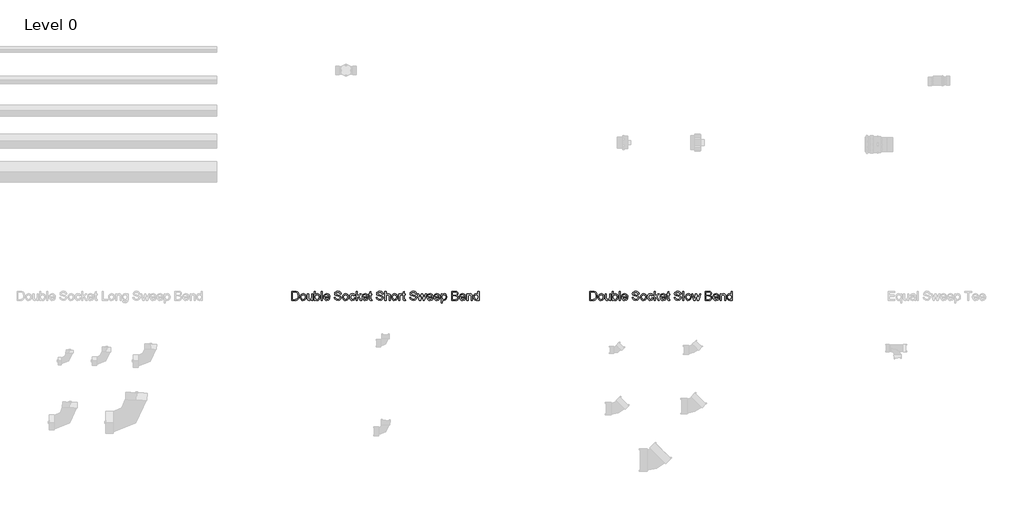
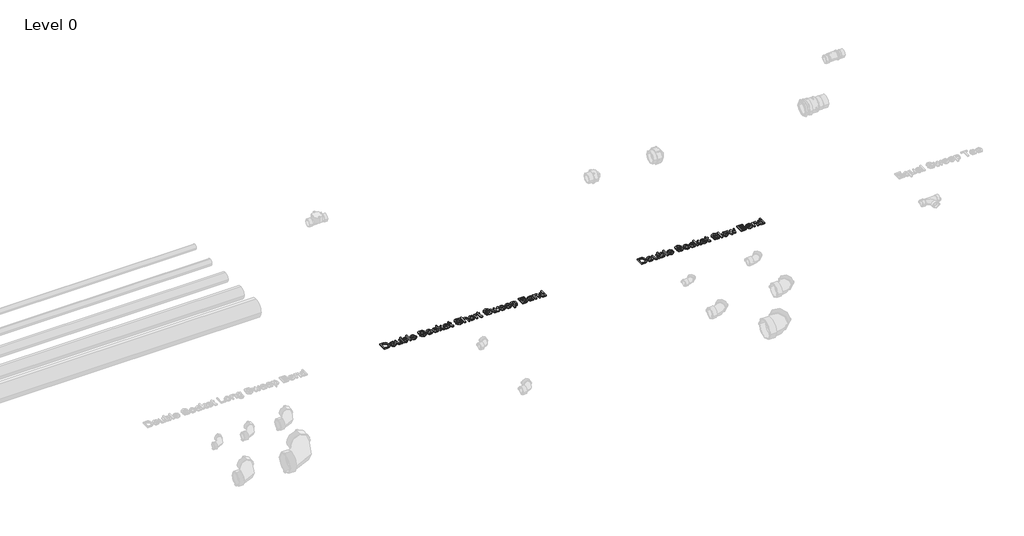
# One storey, part 7 of 10: 2 proxies.
"""IFC4 building model written with IfcOpenShell, lengths in millimetres."""

from ifc_helpers import new_model, si_unit, origin, origin_with_axes, place, context, project, spatial, polyline, outline, extrude, element, save

model = new_model("IFC4")

# Units and contexts
model_context = context("Model", 3, world=origin())
ifc_project = project(units=[si_unit("LENGTHUNIT", "METRE", prefix="MILLI")], contexts=[model_context])

# Site, building, storey
site = spatial("IfcSite", under=ifc_project)
building = spatial("IfcBuilding", under=site)
storey = spatial("IfcBuildingStorey", under=building, Name="Level 0", Elevation=0.0)

# Proxies
placement = place(None, origin())
element("IfcBuildingElementProxy", 1, Name="75mm Arial", ObjectType="75mm Arial", at=placement, inside=storey, context=model_context, shape_type="SweptSolid", body=[
    extrude(outline(polyline([(-868.1771031, 3356.6243175), (-868.1771031, 3430.4704713), (-842.7023435, 3430.4704713), (-829.5232569, 3429.4067694), (-818.6698916, 3424.1243175), (-809.9259012, 3411.5041252), (-807.0232569, 3393.944029), (-808.9884012, 3379.0431877), (-814.0364781, 3368.2889809), (-820.7792666, 3361.5912646), (-829.6043867, 3357.8863367), (-841.4763819, 3356.6243175), (-868.1771031, 3356.6243175)]), holes=[polyline([(-858.9463339, 3365.8550867), (-842.6121992, 3365.8550867), (-830.7311896, 3367.1892213), (-823.8802281, 3370.9572502), (-818.2642425, 3380.1249184), (-816.2540262, 3394.0882598), (-820.1933291, 3411.5762405), (-829.7756608, 3419.7613367), (-842.8646031, 3421.2397021), (-858.9463339, 3421.2397021), (-858.9463339, 3365.8550867)])]), origin_with_axes(), (0.0, 0.0, 1.0), 10.0),
    extrude(outline(polyline([(-797.7924877, 3383.7397021), (-795.795793, 3396.8151228), (-789.8057089, 3406.0053271), (-782.4048675, 3410.5080314), (-773.5436896, 3412.0089328), (-763.846424, 3410.1812586), (-756.100781, 3404.6982357), (-751.0234072, 3395.9925566), (-749.3309492, 3384.4969136), (-752.3237377, 3368.0726348), (-761.0406848, 3358.7787646), (-773.5436896, 3355.4704713), (-783.3581428, 3357.2913848), (-791.0947714, 3362.7541252), (-796.1180586, 3371.6423463), (-797.7924877, 3383.7397021)]), holes=[polyline([(-788.5617185, 3383.7577309), (-784.2888819, 3369.4518415), (-773.5436896, 3364.7012405), (-762.834555, 3369.4788848), (-758.5617185, 3384.0461925), (-762.8615983, 3398.0275627), (-773.5436896, 3402.7781636), (-784.2888819, 3398.0455915), (-788.5617185, 3383.7577309)])]), origin_with_axes(), (0.0, 0.0, 1.0), 10.0),
    extrude(outline(polyline([(-704.3309492, 3356.6243175), (-704.3309492, 3365.9452309), (-711.5605166, 3358.0891612), (-720.9896031, 3355.4704713), (-729.6704925, 3357.3094136), (-735.6560694, 3361.9247982), (-738.4054685, 3368.7216732), (-738.9463339, 3377.303404), (-738.9463339, 3410.8550867), (-729.7155646, 3410.8550867), (-729.7155646, 3381.6483559), (-729.1566704, 3372.2372982), (-725.5058291, 3366.7114569), (-718.6278242, 3364.7012405), (-710.9204925, 3366.756529), (-705.8273435, 3372.3544857), (-704.3309492, 3382.6399425), (-704.3309492, 3410.8550867), (-695.10018, 3410.8550867), (-695.10018, 3356.6243175), (-704.3309492, 3356.6243175)])), origin_with_axes(), (0.0, 0.0, 1.0), 10.0),
    extrude(outline(polyline([(-673.1771031, 3356.6243175), (-682.4078723, 3356.6243175), (-682.4078723, 3430.4704713), (-673.1771031, 3430.4704713), (-673.1771031, 3403.084654), (-666.7137617, 3409.7778631), (-658.6819108, 3412.0089328), (-649.4331127, 3409.9987165), (-642.2576319, 3404.3466732), (-637.8495791, 3395.5576107), (-636.2540262, 3384.5510002), (-637.9059192, 3372.2282838), (-642.8615983, 3363.0606155), (-650.1339841, 3357.3680074), (-658.7359973, 3355.4704713), (-666.9436295, 3357.9178872), (-673.1771031, 3365.2601348), (-673.1771031, 3356.6243175)]), holes=[polyline([(-673.1771031, 3384.1183078), (-670.6530646, 3371.209654), (-665.8168267, 3366.3283439), (-659.5292666, 3364.7012405), (-649.6494589, 3369.4969136), (-645.4847954, 3383.7937886), (-649.4781848, 3398.1447502), (-659.1326319, 3402.7781636), (-669.0124396, 3397.9824905), (-673.1771031, 3384.1183078)])]), origin_with_axes(), (0.0, 0.0, 1.0), 10.0),
    extrude(outline(polyline([(-625.8694108, 3356.6243175), (-625.8694108, 3430.4704713), (-616.6386416, 3430.4704713), (-616.6386416, 3356.6243175), (-625.8694108, 3356.6243175)])), origin_with_axes(), (0.0, 0.0, 1.0), 10.0),
    extrude(outline(polyline([(-564.8237377, 3372.7781636), (-555.7732569, 3371.6243175), (-564.2378002, 3359.7072502), (-580.0040262, 3355.4704713), (-590.8348555, 3357.2981456), (-599.1686896, 3362.7811684), (-604.482692, 3371.5634701), (-606.2540262, 3383.2889809), (-604.4646632, 3395.4088728), (-599.0965742, 3404.4728752), (-590.8754204, 3410.1249184), (-580.5268627, 3412.0089328), (-570.5005706, 3410.1294256), (-562.4890021, 3404.490904), (-557.2358471, 3395.4449304), (-555.4847954, 3383.3430675), (-555.5388819, 3380.8550867), (-597.0232569, 3380.8550867), (-591.7137617, 3368.865904), (-579.8237377, 3364.7012405), (-570.7732569, 3366.6303271), (-564.8237377, 3372.7781636)]), holes=[polyline([(-597.0232569, 3390.0858559), (-564.7155646, 3390.0858559), (-568.4114781, 3398.4512405), (-580.5629204, 3402.7781636), (-591.9301079, 3399.3256396), (-597.0232569, 3390.0858559)])]), origin_with_axes(), (0.0, 0.0, 1.0), 10.0),
    extrude(outline(polyline([(-519.7155646, 3382.0089328), (-510.4847954, 3382.0089328), (-507.5100358, 3372.7691492), (-500.2444108, 3366.927803), (-489.1746992, 3364.7012405), (-479.5292666, 3366.3869377), (-473.3003002, 3371.0203511), (-471.2540262, 3377.2132598), (-472.7864781, 3382.9734761), (-479.0605166, 3387.1651828), (-492.5010214, 3390.6898223), (-506.9691704, 3395.2421059), (-514.8207329, 3402.1110963), (-517.4078723, 3411.287779), (-514.2077521, 3421.7354953), (-504.8597954, 3429.1092934), (-491.1759012, 3431.6243175), (-476.5725358, 3428.9921059), (-466.8369589, 3421.2577309), (-463.1771031, 3409.7012405), (-472.4078723, 3409.7012405), (-477.6362377, 3419.1844136), (-490.8153242, 3422.3935482), (-504.0304685, 3419.2204713), (-508.1771031, 3411.5582117), (-505.2384012, 3405.1579713), (-490.1662858, 3400.0017213), (-473.8321512, 3395.3683078), (-464.8988579, 3387.8863367), (-462.0232569, 3377.4476348), (-465.3315502, 3366.4049665), (-474.850781, 3358.3460723), (-488.8141223, 3355.4704713), (-505.3015021, 3358.5714328), (-515.7311896, 3367.9103752), (-519.7155646, 3382.0089328)])), origin_with_axes(), (0.0, 0.0, 1.0), 10.0),
    extrude(outline(polyline([(-451.6386416, 3383.7397021), (-449.6419468, 3396.8151228), (-443.6518627, 3406.0053271), (-436.2510214, 3410.5080314), (-427.3898435, 3412.0089328), (-417.6925779, 3410.1812586), (-409.9469348, 3404.6982357), (-404.869561, 3395.9925566), (-403.1771031, 3384.4969136), (-406.1698916, 3368.0726348), (-414.8868387, 3358.7787646), (-427.3898435, 3355.4704713), (-437.2042966, 3357.2913848), (-444.9409252, 3362.7541252), (-449.9642125, 3371.6423463), (-451.6386416, 3383.7397021)]), holes=[polyline([(-442.4078723, 3383.7577309), (-438.1350358, 3369.4518415), (-427.3898435, 3364.7012405), (-416.6807089, 3369.4788848), (-412.4078723, 3384.0461925), (-416.7077521, 3398.0275627), (-427.3898435, 3402.7781636), (-438.1350358, 3398.0455915), (-442.4078723, 3383.7577309)])]), origin_with_axes(), (0.0, 0.0, 1.0), 10.0),
    extrude(outline(polyline([(-358.1771031, 3376.2397021), (-348.9463339, 3375.0858559), (-356.3561896, 3360.6717934), (-370.9956127, 3355.4704713), (-380.814573, 3357.284624), (-388.4926079, 3362.7270819), (-393.448287, 3371.5589629), (-395.10018, 3383.5413848), (-392.2786656, 3398.8749184), (-383.678906, 3408.7276828), (-371.1218146, 3412.0089328), (-357.0863579, 3407.5017213), (-350.10018, 3394.7012405), (-359.3309492, 3393.5473944), (-363.6128002, 3400.4614569), (-371.0496992, 3402.7781636), (-381.7498194, 3398.2168655), (-385.8694108, 3383.7937886), (-381.8399637, 3369.2354953), (-371.3021031, 3364.7012405), (-362.6031848, 3367.5317694), (-358.1771031, 3376.2397021)])), origin_with_axes(), (0.0, 0.0, 1.0), 10.0),
    extrude(outline(polyline([(-340.8694108, 3356.6243175), (-340.8694108, 3430.4704713), (-331.6386416, 3430.4704713), (-331.6386416, 3390.7889809), (-310.9415262, 3410.8550867), (-298.1771031, 3410.8550867), (-319.1266223, 3390.5365771), (-297.0232569, 3356.6243175), (-307.8045069, 3356.6243175), (-325.7432089, 3384.1183078), (-331.6386416, 3378.4031636), (-331.6386416, 3356.6243175), (-340.8694108, 3356.6243175)])), origin_with_axes(), (0.0, 0.0, 1.0), 10.0),
    extrude(outline(polyline([(-250.9775839, 3372.7781636), (-241.9271031, 3371.6243175), (-250.3916464, 3359.7072502), (-266.1578723, 3355.4704713), (-276.9887017, 3357.2981456), (-285.3225358, 3362.7811684), (-290.6365382, 3371.5634701), (-292.4078723, 3383.2889809), (-290.6185093, 3395.4088728), (-285.2504204, 3404.4728752), (-277.0292666, 3410.1249184), (-266.6807089, 3412.0089328), (-256.6544168, 3410.1294256), (-248.6428483, 3404.490904), (-243.3896932, 3395.4449304), (-241.6386416, 3383.3430675), (-241.6927281, 3380.8550867), (-283.1771031, 3380.8550867), (-277.8676079, 3368.865904), (-265.9775839, 3364.7012405), (-256.9271031, 3366.6303271), (-250.9775839, 3372.7781636)]), holes=[polyline([(-283.1771031, 3390.0858559), (-250.8694108, 3390.0858559), (-254.5653242, 3398.4512405), (-266.7167666, 3402.7781636), (-278.0839541, 3399.3256396), (-283.1771031, 3390.0858559)])]), origin_with_axes(), (0.0, 0.0, 1.0), 10.0),
    extrude(outline(polyline([(-212.7924877, 3364.3226348), (-211.6386416, 3356.3538848), (-218.5436896, 3355.4704713), (-226.2780646, 3357.0029232), (-230.1362377, 3361.0233559), (-231.2540262, 3371.4981155), (-231.2540262, 3401.6243175), (-238.1771031, 3401.6243175), (-238.1771031, 3410.8550867), (-231.2540262, 3410.8550867), (-231.2540262, 3424.0341732), (-222.0232569, 3429.4608559), (-222.0232569, 3410.8550867), (-212.7924877, 3410.8550867), (-212.7924877, 3401.6243175), (-222.0232569, 3401.6243175), (-222.0232569, 3371.7685482), (-221.5364781, 3367.0089328), (-219.9589541, 3365.3232357), (-216.8129204, 3364.7012405), (-212.7924877, 3364.3226348)])), origin_with_axes(), (0.0, 0.0, 1.0), 10.0),
    extrude(outline(polyline([(-177.0232569, 3382.0089328), (-167.7924877, 3382.0089328), (-164.8177281, 3372.7691492), (-157.5521031, 3366.927803), (-146.4823916, 3364.7012405), (-136.8369589, 3366.3869377), (-130.6079925, 3371.0203511), (-128.5617185, 3377.2132598), (-130.0941704, 3382.9734761), (-136.3682089, 3387.1651828), (-149.8087137, 3390.6898223), (-164.2768627, 3395.2421059), (-172.1284252, 3402.1110963), (-174.7155646, 3411.287779), (-171.5154444, 3421.7354953), (-162.1674877, 3429.1092934), (-148.4835935, 3431.6243175), (-133.8802281, 3428.9921059), (-124.1446512, 3421.2577309), (-120.4847954, 3409.7012405), (-129.7155646, 3409.7012405), (-134.94393, 3419.1844136), (-148.1230166, 3422.3935482), (-161.3381608, 3419.2204713), (-165.4847954, 3411.5582117), (-162.5460935, 3405.1579713), (-147.4739781, 3400.0017213), (-131.1398435, 3395.3683078), (-122.2065502, 3387.8863367), (-119.3309492, 3377.4476348), (-122.6392425, 3366.4049665), (-132.1584733, 3358.3460723), (-146.1218146, 3355.4704713), (-162.6091944, 3358.5714328), (-173.0388819, 3367.9103752), (-177.0232569, 3382.0089328)])), origin_with_axes(), (0.0, 0.0, 1.0), 10.0),
    extrude(outline(polyline([(-106.6386416, 3356.6243175), (-106.6386416, 3430.4704713), (-97.4078723, 3430.4704713), (-97.4078723, 3356.6243175), (-106.6386416, 3356.6243175)])), origin_with_axes(), (0.0, 0.0, 1.0), 10.0),
    extrude(outline(polyline([(-85.8694108, 3383.7397021), (-83.8727161, 3396.8151228), (-77.8826319, 3406.0053271), (-70.4817906, 3410.5080314), (-61.6206127, 3412.0089328), (-51.9233471, 3410.1812586), (-44.1777041, 3404.6982357), (-39.1003303, 3395.9925566), (-37.4078723, 3384.4969136), (-40.4006608, 3368.0726348), (-49.1176079, 3358.7787646), (-61.6206127, 3355.4704713), (-71.4350658, 3357.2913848), (-79.1716944, 3362.7541252), (-84.1949817, 3371.6423463), (-85.8694108, 3383.7397021)]), holes=[polyline([(-76.6386416, 3383.7577309), (-72.365805, 3369.4518415), (-61.6206127, 3364.7012405), (-50.9114781, 3369.4788848), (-46.6386416, 3384.0461925), (-50.9385214, 3398.0275627), (-61.6206127, 3402.7781636), (-72.365805, 3398.0455915), (-76.6386416, 3383.7577309)])]), origin_with_axes(), (0.0, 0.0, 1.0), 10.0),
    extrude(outline(polyline([(-18.0268627, 3356.6243175), (-34.5232569, 3410.8550867), (-24.9319108, 3410.8550867), (-15.5749396, 3379.2144617), (-12.7804685, 3367.9103752), (-10.490805, 3378.7997982), (-3.0448916, 3410.8550867), (7.9527046, 3410.8550867), (15.3625604, 3378.8899425), (17.39982, 3369.0281636), (20.3204931, 3379.4308078), (29.6954931, 3410.8550867), (39.3228969, 3410.8550867), (22.7003008, 3356.6243175), (11.540445, 3356.6243175), (4.4551084, 3388.4272021), (2.39982, 3398.3430675), (-6.740805, 3356.6243175), (-18.0268627, 3356.6243175)])), origin_with_axes(), (0.0, 0.0, 1.0), 10.0),
    extrude(outline(polyline([(75.6690508, 3356.6243175), (75.6690508, 3430.4704713), (103.8481373, 3430.4704713), (117.649219, 3428.2979953), (125.7982575, 3421.6183078), (128.7459738, 3412.1711925), (126.2670075, 3403.5443896), (118.7760219, 3397.0089328), (127.8715748, 3390.1219136), (131.0536661, 3378.6375386), (128.8811902, 3368.7126588), (123.4995796, 3361.6453511), (115.4677286, 3357.8953511), (103.6317911, 3356.6243175), (75.6690508, 3356.6243175)]), holes=[polyline([(84.89982, 3400.4704713), (101.7567911, 3400.4704713), (111.6005411, 3401.2637405), (117.5230171, 3404.6802069), (119.5152046, 3410.6928271), (117.6582334, 3416.7144617), (112.3397238, 3420.2751588), (100.4767431, 3421.2397021), (84.89982, 3421.2397021), (84.89982, 3400.4704713)]), polyline([(84.89982, 3365.8550867), (103.8301084, 3365.8550867), (110.68107, 3366.2156636), (116.477344, 3368.22588), (120.3174883, 3372.3274425), (121.8228969, 3378.5473944), (120.05607, 3385.7228752), (114.3319113, 3390.0047261), (102.9286661, 3391.2397021), (84.89982, 3391.2397021), (84.89982, 3365.8550867)])]), origin_with_axes(), (0.0, 0.0, 1.0), 10.0),
    extrude(outline(polyline([(180.5608777, 3372.7781636), (189.6113584, 3371.6243175), (181.1468152, 3359.7072502), (165.3805892, 3355.4704713), (154.5497599, 3357.2981456), (146.2159258, 3362.7811684), (140.9019233, 3371.5634701), (139.1305892, 3383.2889809), (140.9199522, 3395.4088728), (146.2880411, 3404.4728752), (154.509195, 3410.1249184), (164.8577527, 3412.0089328), (174.8840447, 3410.1294256), (182.8956133, 3404.490904), (188.1487683, 3395.4449304), (189.89982, 3383.3430675), (189.8457334, 3380.8550867), (148.3613584, 3380.8550867), (153.6708536, 3368.865904), (165.5608777, 3364.7012405), (174.6113584, 3366.6303271), (180.5608777, 3372.7781636)]), holes=[polyline([(148.3613584, 3390.0858559), (180.6690508, 3390.0858559), (176.9731373, 3398.4512405), (164.821695, 3402.7781636), (153.4545075, 3399.3256396), (148.3613584, 3390.0858559)])]), origin_with_axes(), (0.0, 0.0, 1.0), 10.0),
    extrude(outline(polyline([(199.1305892, 3356.6243175), (199.1305892, 3410.8550867), (208.3613584, 3410.8550867), (208.3613584, 3403.2829713), (215.4196517, 3409.8274425), (225.05607, 3412.0089328), (233.7730171, 3410.2511203), (239.7225363, 3405.6357357), (242.4899642, 3398.8478752), (242.9767431, 3389.9235963), (242.9767431, 3356.6243175), (233.7459738, 3356.6243175), (233.7459738, 3388.6796059), (232.6822719, 3396.8466732), (228.9232575, 3401.1645819), (222.5861181, 3402.7781636), (212.571094, 3399.1543655), (208.3613584, 3385.3983559), (208.3613584, 3356.6243175), (199.1305892, 3356.6243175)])), origin_with_axes(), (0.0, 0.0, 1.0), 10.0),
    extrude(outline(polyline([(289.1305892, 3356.6243175), (289.1305892, 3365.3322502), (283.0233176, 3357.935916), (274.5813104, 3355.4704713), (263.1510219, 3359.0401828), (255.0740988, 3369.0011203), (252.2075123, 3383.6856155), (254.8487383, 3398.3791252), (262.7634017, 3408.4933078), (274.5452527, 3412.0089328), (283.0548681, 3409.4939088), (289.1305892, 3402.9584521), (289.1305892, 3430.4704713), (298.3613584, 3430.4704713), (298.3613584, 3356.6243175), (289.1305892, 3356.6243175)]), holes=[polyline([(261.4382815, 3383.7216732), (265.602945, 3369.4338127), (275.4286661, 3364.7012405), (285.1371998, 3369.2174665), (289.1305892, 3383.0185482), (285.0650844, 3398.0005194), (275.0500604, 3402.7781636), (265.3325123, 3398.1898223), (261.4382815, 3383.7216732)])]), origin_with_axes(), (0.0, 0.0, 1.0), 10.0),
])
element("IfcBuildingElementProxy", 2, Name="75mm Arial", ObjectType="75mm Arial", at=placement, inside=storey, context=model_context, shape_type="SweptSolid", body=[
    extrude(outline(polyline([(-3299.9078723, 3356.6243175), (-3299.9078723, 3430.4704713), (-3274.4331127, 3430.4704713), (-3261.2540262, 3429.4067694), (-3250.4006608, 3424.1243175), (-3241.6566704, 3411.5041252), (-3238.7540262, 3393.944029), (-3240.7191704, 3379.0431877), (-3245.7672473, 3368.2889809), (-3252.5100358, 3361.5912646), (-3261.335156, 3357.8863367), (-3273.2071512, 3356.6243175), (-3299.9078723, 3356.6243175)]), holes=[polyline([(-3290.6771031, 3365.8550867), (-3274.3429685, 3365.8550867), (-3262.4619589, 3367.1892213), (-3255.6109973, 3370.9572502), (-3249.9950117, 3380.1249184), (-3247.9847954, 3394.0882598), (-3251.9240983, 3411.5762405), (-3261.50643, 3419.7613367), (-3274.5953723, 3421.2397021), (-3290.6771031, 3421.2397021), (-3290.6771031, 3365.8550867)])]), origin_with_axes(), (0.0, 0.0, 1.0), 10.0),
    extrude(outline(polyline([(-3229.5232569, 3383.7397021), (-3227.5265622, 3396.8151228), (-3221.5364781, 3406.0053271), (-3214.1356367, 3410.5080314), (-3205.2744589, 3412.0089328), (-3195.5771932, 3410.1812586), (-3187.8315502, 3404.6982357), (-3182.7541764, 3395.9925566), (-3181.0617185, 3384.4969136), (-3184.0545069, 3368.0726348), (-3192.7714541, 3358.7787646), (-3205.2744589, 3355.4704713), (-3215.088912, 3357.2913848), (-3222.8255406, 3362.7541252), (-3227.8488279, 3371.6423463), (-3229.5232569, 3383.7397021)]), holes=[polyline([(-3220.2924877, 3383.7577309), (-3216.0196512, 3369.4518415), (-3205.2744589, 3364.7012405), (-3194.5653242, 3369.4788848), (-3190.2924877, 3384.0461925), (-3194.5923675, 3398.0275627), (-3205.2744589, 3402.7781636), (-3216.0196512, 3398.0455915), (-3220.2924877, 3383.7577309)])]), origin_with_axes(), (0.0, 0.0, 1.0), 10.0),
    extrude(outline(polyline([(-3136.0617185, 3356.6243175), (-3136.0617185, 3365.9452309), (-3143.2912858, 3358.0891612), (-3152.7203723, 3355.4704713), (-3161.4012617, 3357.3094136), (-3167.3868387, 3361.9247982), (-3170.1362377, 3368.7216732), (-3170.6771031, 3377.303404), (-3170.6771031, 3410.8550867), (-3161.4463339, 3410.8550867), (-3161.4463339, 3381.6483559), (-3160.8874396, 3372.2372982), (-3157.2365983, 3366.7114569), (-3150.3585935, 3364.7012405), (-3142.6512617, 3366.756529), (-3137.5581127, 3372.3544857), (-3136.0617185, 3382.6399425), (-3136.0617185, 3410.8550867), (-3126.8309492, 3410.8550867), (-3126.8309492, 3356.6243175), (-3136.0617185, 3356.6243175)])), origin_with_axes(), (0.0, 0.0, 1.0), 10.0),
    extrude(outline(polyline([(-3104.9078723, 3356.6243175), (-3114.1386416, 3356.6243175), (-3114.1386416, 3430.4704713), (-3104.9078723, 3430.4704713), (-3104.9078723, 3403.084654), (-3098.444531, 3409.7778631), (-3090.41268, 3412.0089328), (-3081.1638819, 3409.9987165), (-3073.9884012, 3404.3466732), (-3069.5803483, 3395.5576107), (-3067.9847954, 3384.5510002), (-3069.6366884, 3372.2282838), (-3074.5923675, 3363.0606155), (-3081.8647533, 3357.3680074), (-3090.4667666, 3355.4704713), (-3098.6743988, 3357.9178872), (-3104.9078723, 3365.2601348), (-3104.9078723, 3356.6243175)]), holes=[polyline([(-3104.9078723, 3384.1183078), (-3102.3838339, 3371.209654), (-3097.5475959, 3366.3283439), (-3091.2600358, 3364.7012405), (-3081.3802281, 3369.4969136), (-3077.2155646, 3383.7937886), (-3081.2089541, 3398.1447502), (-3090.8634012, 3402.7781636), (-3100.7432089, 3397.9824905), (-3104.9078723, 3384.1183078)])]), origin_with_axes(), (0.0, 0.0, 1.0), 10.0),
    extrude(outline(polyline([(-3057.60018, 3356.6243175), (-3057.60018, 3430.4704713), (-3048.3694108, 3430.4704713), (-3048.3694108, 3356.6243175), (-3057.60018, 3356.6243175)])), origin_with_axes(), (0.0, 0.0, 1.0), 10.0),
    extrude(outline(polyline([(-2996.5545069, 3372.7781636), (-2987.5040262, 3371.6243175), (-2995.9685694, 3359.7072502), (-3011.7347954, 3355.4704713), (-3022.5656247, 3357.2981456), (-3030.8994589, 3362.7811684), (-3036.2134613, 3371.5634701), (-3037.9847954, 3383.2889809), (-3036.1954324, 3395.4088728), (-3030.8273435, 3404.4728752), (-3022.6061896, 3410.1249184), (-3012.2576319, 3412.0089328), (-3002.2313399, 3410.1294256), (-2994.2197714, 3404.490904), (-2988.9666163, 3395.4449304), (-2987.2155646, 3383.3430675), (-2987.2696512, 3380.8550867), (-3028.7540262, 3380.8550867), (-3023.444531, 3368.865904), (-3011.5545069, 3364.7012405), (-3002.5040262, 3366.6303271), (-2996.5545069, 3372.7781636)]), holes=[polyline([(-3028.7540262, 3390.0858559), (-2996.4463339, 3390.0858559), (-3000.1422473, 3398.4512405), (-3012.2936896, 3402.7781636), (-3023.6608771, 3399.3256396), (-3028.7540262, 3390.0858559)])]), origin_with_axes(), (0.0, 0.0, 1.0), 10.0),
    extrude(outline(polyline([(-2951.4463339, 3382.0089328), (-2942.2155646, 3382.0089328), (-2939.240805, 3372.7691492), (-2931.97518, 3366.927803), (-2920.9054685, 3364.7012405), (-2911.2600358, 3366.3869377), (-2905.0310694, 3371.0203511), (-2902.9847954, 3377.2132598), (-2904.5172473, 3382.9734761), (-2910.7912858, 3387.1651828), (-2924.2317906, 3390.6898223), (-2938.6999396, 3395.2421059), (-2946.5515021, 3402.1110963), (-2949.1386416, 3411.287779), (-2945.9385214, 3421.7354953), (-2936.5905646, 3429.1092934), (-2922.9066704, 3431.6243175), (-2908.303305, 3428.9921059), (-2898.5677281, 3421.2577309), (-2894.9078723, 3409.7012405), (-2904.1386416, 3409.7012405), (-2909.3670069, 3419.1844136), (-2922.5460935, 3422.3935482), (-2935.7612377, 3419.2204713), (-2939.9078723, 3411.5582117), (-2936.9691704, 3405.1579713), (-2921.897055, 3400.0017213), (-2905.5629204, 3395.3683078), (-2896.6296271, 3387.8863367), (-2893.7540262, 3377.4476348), (-2897.0623194, 3366.4049665), (-2906.5815502, 3358.3460723), (-2920.5448916, 3355.4704713), (-2937.0322714, 3358.5714328), (-2947.4619589, 3367.9103752), (-2951.4463339, 3382.0089328)])), origin_with_axes(), (0.0, 0.0, 1.0), 10.0),
    extrude(outline(polyline([(-2883.3694108, 3383.7397021), (-2881.3727161, 3396.8151228), (-2875.3826319, 3406.0053271), (-2867.9817906, 3410.5080314), (-2859.1206127, 3412.0089328), (-2849.4233471, 3410.1812586), (-2841.6777041, 3404.6982357), (-2836.6003303, 3395.9925566), (-2834.9078723, 3384.4969136), (-2837.9006608, 3368.0726348), (-2846.6176079, 3358.7787646), (-2859.1206127, 3355.4704713), (-2868.9350658, 3357.2913848), (-2876.6716944, 3362.7541252), (-2881.6949817, 3371.6423463), (-2883.3694108, 3383.7397021)]), holes=[polyline([(-2874.1386416, 3383.7577309), (-2869.865805, 3369.4518415), (-2859.1206127, 3364.7012405), (-2848.4114781, 3369.4788848), (-2844.1386416, 3384.0461925), (-2848.4385214, 3398.0275627), (-2859.1206127, 3402.7781636), (-2869.865805, 3398.0455915), (-2874.1386416, 3383.7577309)])]), origin_with_axes(), (0.0, 0.0, 1.0), 10.0),
    extrude(outline(polyline([(-2789.9078723, 3376.2397021), (-2780.6771031, 3375.0858559), (-2788.0869589, 3360.6717934), (-2802.7263819, 3355.4704713), (-2812.5453423, 3357.284624), (-2820.2233771, 3362.7270819), (-2825.1790562, 3371.5589629), (-2826.8309492, 3383.5413848), (-2824.0094348, 3398.8749184), (-2815.4096752, 3408.7276828), (-2802.8525839, 3412.0089328), (-2788.8171271, 3407.5017213), (-2781.8309492, 3394.7012405), (-2791.0617185, 3393.5473944), (-2795.3435694, 3400.4614569), (-2802.7804685, 3402.7781636), (-2813.4805887, 3398.2168655), (-2817.60018, 3383.7937886), (-2813.5707329, 3369.2354953), (-2803.0328723, 3364.7012405), (-2794.3339541, 3367.5317694), (-2789.9078723, 3376.2397021)])), origin_with_axes(), (0.0, 0.0, 1.0), 10.0),
    extrude(outline(polyline([(-2772.60018, 3356.6243175), (-2772.60018, 3430.4704713), (-2763.3694108, 3430.4704713), (-2763.3694108, 3390.7889809), (-2742.6722954, 3410.8550867), (-2729.9078723, 3410.8550867), (-2750.8573916, 3390.5365771), (-2728.7540262, 3356.6243175), (-2739.5352762, 3356.6243175), (-2757.4739781, 3384.1183078), (-2763.3694108, 3378.4031636), (-2763.3694108, 3356.6243175), (-2772.60018, 3356.6243175)])), origin_with_axes(), (0.0, 0.0, 1.0), 10.0),
    extrude(outline(polyline([(-2682.7083531, 3372.7781636), (-2673.6578723, 3371.6243175), (-2682.1224156, 3359.7072502), (-2697.8886416, 3355.4704713), (-2708.7194709, 3357.2981456), (-2717.053305, 3362.7811684), (-2722.3673074, 3371.5634701), (-2724.1386416, 3383.2889809), (-2722.3492786, 3395.4088728), (-2716.9811896, 3404.4728752), (-2708.7600358, 3410.1249184), (-2698.4114781, 3412.0089328), (-2688.385186, 3410.1294256), (-2680.3736175, 3404.490904), (-2675.1204625, 3395.4449304), (-2673.3694108, 3383.3430675), (-2673.4234973, 3380.8550867), (-2714.9078723, 3380.8550867), (-2709.5983771, 3368.865904), (-2697.7083531, 3364.7012405), (-2688.6578723, 3366.6303271), (-2682.7083531, 3372.7781636)]), holes=[polyline([(-2714.9078723, 3390.0858559), (-2682.60018, 3390.0858559), (-2686.2960935, 3398.4512405), (-2698.4475358, 3402.7781636), (-2709.8147233, 3399.3256396), (-2714.9078723, 3390.0858559)])]), origin_with_axes(), (0.0, 0.0, 1.0), 10.0),
    extrude(outline(polyline([(-2644.5232569, 3364.3226348), (-2643.3694108, 3356.3538848), (-2650.2744589, 3355.4704713), (-2658.0088339, 3357.0029232), (-2661.8670069, 3361.0233559), (-2662.9847954, 3371.4981155), (-2662.9847954, 3401.6243175), (-2669.9078723, 3401.6243175), (-2669.9078723, 3410.8550867), (-2662.9847954, 3410.8550867), (-2662.9847954, 3424.0341732), (-2653.7540262, 3429.4608559), (-2653.7540262, 3410.8550867), (-2644.5232569, 3410.8550867), (-2644.5232569, 3401.6243175), (-2653.7540262, 3401.6243175), (-2653.7540262, 3371.7685482), (-2653.2672473, 3367.0089328), (-2651.6897233, 3365.3232357), (-2648.5436896, 3364.7012405), (-2644.5232569, 3364.3226348)])), origin_with_axes(), (0.0, 0.0, 1.0), 10.0),
    extrude(outline(polyline([(-2608.7540262, 3382.0089328), (-2599.5232569, 3382.0089328), (-2596.5484973, 3372.7691492), (-2589.2828723, 3366.927803), (-2578.2131608, 3364.7012405), (-2568.5677281, 3366.3869377), (-2562.3387617, 3371.0203511), (-2560.2924877, 3377.2132598), (-2561.8249396, 3382.9734761), (-2568.0989781, 3387.1651828), (-2581.5394829, 3390.6898223), (-2596.0076319, 3395.2421059), (-2603.8591944, 3402.1110963), (-2606.4463339, 3411.287779), (-2603.2462137, 3421.7354953), (-2593.8982569, 3429.1092934), (-2580.2143627, 3431.6243175), (-2565.6109973, 3428.9921059), (-2555.8754204, 3421.2577309), (-2552.2155646, 3409.7012405), (-2561.4463339, 3409.7012405), (-2566.6746992, 3419.1844136), (-2579.8537858, 3422.3935482), (-2593.06893, 3419.2204713), (-2597.2155646, 3411.5582117), (-2594.2768627, 3405.1579713), (-2579.2047473, 3400.0017213), (-2562.8706127, 3395.3683078), (-2553.9373194, 3387.8863367), (-2551.0617185, 3377.4476348), (-2554.3700117, 3366.4049665), (-2563.8892425, 3358.3460723), (-2577.8525839, 3355.4704713), (-2594.3399637, 3358.5714328), (-2604.7696512, 3367.9103752), (-2608.7540262, 3382.0089328)])), origin_with_axes(), (0.0, 0.0, 1.0), 10.0),
    extrude(outline(polyline([(-2538.3694108, 3356.6243175), (-2538.3694108, 3430.4704713), (-2529.1386416, 3430.4704713), (-2529.1386416, 3403.319029), (-2521.9406247, 3409.8364569), (-2513.0749396, 3412.0089328), (-2502.7083531, 3409.6381396), (-2496.4162858, 3403.084654), (-2494.5232569, 3390.9512405), (-2494.5232569, 3356.6243175), (-2503.7540262, 3356.6243175), (-2503.7540262, 3389.9957117), (-2506.6927281, 3399.7312886), (-2515.022055, 3402.7781636), (-2522.585156, 3400.7228752), (-2527.6332329, 3395.1519617), (-2529.1386416, 3385.4344136), (-2529.1386416, 3356.6243175), (-2538.3694108, 3356.6243175)])), origin_with_axes(), (0.0, 0.0, 1.0), 10.0),
    extrude(outline(polyline([(-2484.1386416, 3383.7397021), (-2482.1419468, 3396.8151228), (-2476.1518627, 3406.0053271), (-2468.7510214, 3410.5080314), (-2459.8898435, 3412.0089328), (-2450.1925779, 3410.1812586), (-2442.4469348, 3404.6982357), (-2437.369561, 3395.9925566), (-2435.6771031, 3384.4969136), (-2438.6698916, 3368.0726348), (-2447.3868387, 3358.7787646), (-2459.8898435, 3355.4704713), (-2469.7042966, 3357.2913848), (-2477.4409252, 3362.7541252), (-2482.4642125, 3371.6423463), (-2484.1386416, 3383.7397021)]), holes=[polyline([(-2474.9078723, 3383.7577309), (-2470.6350358, 3369.4518415), (-2459.8898435, 3364.7012405), (-2449.1807089, 3369.4788848), (-2444.9078723, 3384.0461925), (-2449.2077521, 3398.0275627), (-2459.8898435, 3402.7781636), (-2470.6350358, 3398.0455915), (-2474.9078723, 3383.7577309)])]), origin_with_axes(), (0.0, 0.0, 1.0), 10.0),
    extrude(outline(polyline([(-2425.2924877, 3356.6243175), (-2425.2924877, 3410.8550867), (-2417.2155646, 3410.8550867), (-2417.2155646, 3402.8322502), (-2411.4823916, 3410.2240771), (-2405.7131608, 3412.0089328), (-2396.4463339, 3409.1603752), (-2399.5292666, 3400.8851348), (-2406.0196512, 3402.7781636), (-2411.2390021, 3400.9572502), (-2414.5653242, 3395.9091732), (-2416.0617185, 3385.1279232), (-2416.0617185, 3356.6243175), (-2425.2924877, 3356.6243175)])), origin_with_axes(), (0.0, 0.0, 1.0), 10.0),
    extrude(outline(polyline([(-2371.0617185, 3364.3226348), (-2369.9078723, 3356.3538848), (-2376.8129204, 3355.4704713), (-2384.5472954, 3357.0029232), (-2388.4054685, 3361.0233559), (-2389.5232569, 3371.4981155), (-2389.5232569, 3401.6243175), (-2396.4463339, 3401.6243175), (-2396.4463339, 3410.8550867), (-2389.5232569, 3410.8550867), (-2389.5232569, 3424.0341732), (-2380.2924877, 3429.4608559), (-2380.2924877, 3410.8550867), (-2371.0617185, 3410.8550867), (-2371.0617185, 3401.6243175), (-2380.2924877, 3401.6243175), (-2380.2924877, 3371.7685482), (-2379.8057089, 3367.0089328), (-2378.2281848, 3365.3232357), (-2375.0821512, 3364.7012405), (-2371.0617185, 3364.3226348)])), origin_with_axes(), (0.0, 0.0, 1.0), 10.0),
    extrude(outline(polyline([(-2335.2924877, 3382.0089328), (-2326.0617185, 3382.0089328), (-2323.0869589, 3372.7691492), (-2315.8213339, 3366.927803), (-2304.7516223, 3364.7012405), (-2295.1061896, 3366.3869377), (-2288.8772233, 3371.0203511), (-2286.8309492, 3377.2132598), (-2288.3634012, 3382.9734761), (-2294.6374396, 3387.1651828), (-2308.0779444, 3390.6898223), (-2322.5460935, 3395.2421059), (-2330.397656, 3402.1110963), (-2332.9847954, 3411.287779), (-2329.7846752, 3421.7354953), (-2320.4367185, 3429.1092934), (-2306.7528242, 3431.6243175), (-2292.1494589, 3428.9921059), (-2282.4138819, 3421.2577309), (-2278.7540262, 3409.7012405), (-2287.9847954, 3409.7012405), (-2293.2131608, 3419.1844136), (-2306.3922473, 3422.3935482), (-2319.6073916, 3419.2204713), (-2323.7540262, 3411.5582117), (-2320.8153242, 3405.1579713), (-2305.7432089, 3400.0017213), (-2289.4090742, 3395.3683078), (-2280.475781, 3387.8863367), (-2277.60018, 3377.4476348), (-2280.9084733, 3366.4049665), (-2290.4277041, 3358.3460723), (-2304.3910454, 3355.4704713), (-2320.8784252, 3358.5714328), (-2331.3081127, 3367.9103752), (-2335.2924877, 3382.0089328)])), origin_with_axes(), (0.0, 0.0, 1.0), 10.0),
    extrude(outline(polyline([(-2255.9114781, 3356.6243175), (-2272.4078723, 3410.8550867), (-2262.8165262, 3410.8550867), (-2253.459555, 3379.2144617), (-2250.6650839, 3367.9103752), (-2248.3754204, 3378.7997982), (-2240.9295069, 3410.8550867), (-2229.9319108, 3410.8550867), (-2222.522055, 3378.8899425), (-2220.4847954, 3369.0281636), (-2217.5641223, 3379.4308078), (-2208.1891223, 3410.8550867), (-2198.5617185, 3410.8550867), (-2215.1843146, 3356.6243175), (-2226.3441704, 3356.6243175), (-2233.4295069, 3388.4272021), (-2235.4847954, 3398.3430675), (-2244.6254204, 3356.6243175), (-2255.9114781, 3356.6243175)])), origin_with_axes(), (0.0, 0.0, 1.0), 10.0),
    extrude(outline(polyline([(-2154.2468146, 3372.7781636), (-2145.1963339, 3371.6243175), (-2153.6608771, 3359.7072502), (-2169.4271031, 3355.4704713), (-2180.2579324, 3357.2981456), (-2188.5917666, 3362.7811684), (-2193.905769, 3371.5634701), (-2195.6771031, 3383.2889809), (-2193.8877401, 3395.4088728), (-2188.5196512, 3404.4728752), (-2180.2984973, 3410.1249184), (-2169.9499396, 3412.0089328), (-2159.9236476, 3410.1294256), (-2151.9120791, 3404.490904), (-2146.658924, 3395.4449304), (-2144.9078723, 3383.3430675), (-2144.9619589, 3380.8550867), (-2186.4463339, 3380.8550867), (-2181.1368387, 3368.865904), (-2169.2468146, 3364.7012405), (-2160.1963339, 3366.6303271), (-2154.2468146, 3372.7781636)]), holes=[polyline([(-2186.4463339, 3390.0858559), (-2154.1386416, 3390.0858559), (-2157.834555, 3398.4512405), (-2169.9859973, 3402.7781636), (-2181.3531848, 3399.3256396), (-2186.4463339, 3390.0858559)])]), origin_with_axes(), (0.0, 0.0, 1.0), 10.0),
    extrude(outline(polyline([(-2097.7083531, 3372.7781636), (-2088.6578723, 3371.6243175), (-2097.1224156, 3359.7072502), (-2112.8886416, 3355.4704713), (-2123.7194709, 3357.2981456), (-2132.053305, 3362.7811684), (-2137.3673074, 3371.5634701), (-2139.1386416, 3383.2889809), (-2137.3492786, 3395.4088728), (-2131.9811896, 3404.4728752), (-2123.7600358, 3410.1249184), (-2113.4114781, 3412.0089328), (-2103.385186, 3410.1294256), (-2095.3736175, 3404.490904), (-2090.1204625, 3395.4449304), (-2088.3694108, 3383.3430675), (-2088.4234973, 3380.8550867), (-2129.9078723, 3380.8550867), (-2124.5983771, 3368.865904), (-2112.7083531, 3364.7012405), (-2103.6578723, 3366.6303271), (-2097.7083531, 3372.7781636)]), holes=[polyline([(-2129.9078723, 3390.0858559), (-2097.60018, 3390.0858559), (-2101.2960935, 3398.4512405), (-2113.4475358, 3402.7781636), (-2124.8147233, 3399.3256396), (-2129.9078723, 3390.0858559)])]), origin_with_axes(), (0.0, 0.0, 1.0), 10.0),
    extrude(outline(polyline([(-2079.1386416, 3335.8550867), (-2079.1386416, 3410.8550867), (-2069.9078723, 3410.8550867), (-2069.9078723, 3401.8046059), (-2063.5256608, 3409.4578511), (-2054.9078723, 3412.0089328), (-2043.2071512, 3408.4392213), (-2035.5629204, 3398.3791252), (-2032.9847954, 3384.1543655), (-2035.8964541, 3369.1994377), (-2044.3519829, 3359.0131396), (-2056.0256608, 3355.4704713), (-2064.0575117, 3357.8412646), (-2069.9078723, 3363.8358559), (-2069.9078723, 3335.8550867), (-2079.1386416, 3335.8550867)]), holes=[polyline([(-2069.9078723, 3383.3070098), (-2065.9144829, 3369.2445098), (-2056.2239781, 3364.7012405), (-2046.335156, 3369.4067694), (-2042.2155646, 3383.9921059), (-2046.2359973, 3398.0906636), (-2055.8453723, 3402.7781636), (-2065.6440502, 3397.7931877), (-2069.9078723, 3383.3070098)])]), origin_with_axes(), (0.0, 0.0, 1.0), 10.0),
    extrude(outline(polyline([(-1992.60018, 3356.6243175), (-1992.60018, 3430.4704713), (-1964.4210935, 3430.4704713), (-1950.6200117, 3428.2979953), (-1942.4709733, 3421.6183078), (-1939.5232569, 3412.1711925), (-1942.0022233, 3403.5443896), (-1949.4932089, 3397.0089328), (-1940.397656, 3390.1219136), (-1937.2155646, 3378.6375386), (-1939.3880406, 3368.7126588), (-1944.7696512, 3361.6453511), (-1952.8015021, 3357.8953511), (-1964.6374396, 3356.6243175), (-1992.60018, 3356.6243175)]), holes=[polyline([(-1983.3694108, 3400.4704713), (-1966.5124396, 3400.4704713), (-1956.6686896, 3401.2637405), (-1950.7462137, 3404.6802069), (-1948.7540262, 3410.6928271), (-1950.6109973, 3416.7144617), (-1955.9295069, 3420.2751588), (-1967.7924877, 3421.2397021), (-1983.3694108, 3421.2397021), (-1983.3694108, 3400.4704713)]), polyline([(-1983.3694108, 3365.8550867), (-1964.4391223, 3365.8550867), (-1957.5881608, 3366.2156636), (-1951.7918867, 3368.22588), (-1947.9517425, 3372.3274425), (-1946.4463339, 3378.5473944), (-1948.2131608, 3385.7228752), (-1953.9373194, 3390.0047261), (-1965.3405646, 3391.2397021), (-1983.3694108, 3391.2397021), (-1983.3694108, 3365.8550867)])]), origin_with_axes(), (0.0, 0.0, 1.0), 10.0),
    extrude(outline(polyline([(-1887.7083531, 3372.7781636), (-1878.6578723, 3371.6243175), (-1887.1224156, 3359.7072502), (-1902.8886416, 3355.4704713), (-1913.7194709, 3357.2981456), (-1922.053305, 3362.7811684), (-1927.3673074, 3371.5634701), (-1929.1386416, 3383.2889809), (-1927.3492786, 3395.4088728), (-1921.9811896, 3404.4728752), (-1913.7600358, 3410.1249184), (-1903.4114781, 3412.0089328), (-1893.385186, 3410.1294256), (-1885.3736175, 3404.490904), (-1880.1204625, 3395.4449304), (-1878.3694108, 3383.3430675), (-1878.4234973, 3380.8550867), (-1919.9078723, 3380.8550867), (-1914.5983771, 3368.865904), (-1902.7083531, 3364.7012405), (-1893.6578723, 3366.6303271), (-1887.7083531, 3372.7781636)]), holes=[polyline([(-1919.9078723, 3390.0858559), (-1887.60018, 3390.0858559), (-1891.2960935, 3398.4512405), (-1903.4475358, 3402.7781636), (-1914.8147233, 3399.3256396), (-1919.9078723, 3390.0858559)])]), origin_with_axes(), (0.0, 0.0, 1.0), 10.0),
    extrude(outline(polyline([(-1869.1386416, 3356.6243175), (-1869.1386416, 3410.8550867), (-1859.9078723, 3410.8550867), (-1859.9078723, 3403.2829713), (-1852.8495791, 3409.8274425), (-1843.2131608, 3412.0089328), (-1834.4962137, 3410.2511203), (-1828.5466944, 3405.6357357), (-1825.7792666, 3398.8478752), (-1825.2924877, 3389.9235963), (-1825.2924877, 3356.6243175), (-1834.5232569, 3356.6243175), (-1834.5232569, 3388.6796059), (-1835.5869589, 3396.8466732), (-1839.3459733, 3401.1645819), (-1845.6831127, 3402.7781636), (-1855.6981367, 3399.1543655), (-1859.9078723, 3385.3983559), (-1859.9078723, 3356.6243175), (-1869.1386416, 3356.6243175)])), origin_with_axes(), (0.0, 0.0, 1.0), 10.0),
    extrude(outline(polyline([(-1779.1386416, 3356.6243175), (-1779.1386416, 3365.3322502), (-1785.2459132, 3357.935916), (-1793.6879204, 3355.4704713), (-1805.1182089, 3359.0401828), (-1813.1951319, 3369.0011203), (-1816.0617185, 3383.6856155), (-1813.4204925, 3398.3791252), (-1805.5058291, 3408.4933078), (-1793.7239781, 3412.0089328), (-1785.2143627, 3409.4939088), (-1779.1386416, 3402.9584521), (-1779.1386416, 3430.4704713), (-1769.9078723, 3430.4704713), (-1769.9078723, 3356.6243175), (-1779.1386416, 3356.6243175)]), holes=[polyline([(-1806.8309492, 3383.7216732), (-1802.6662858, 3369.4338127), (-1792.8405646, 3364.7012405), (-1783.132031, 3369.2174665), (-1779.1386416, 3383.0185482), (-1783.2041464, 3398.0005194), (-1793.2191704, 3402.7781636), (-1802.9367185, 3398.1898223), (-1806.8309492, 3383.7216732)])]), origin_with_axes(), (0.0, 0.0, 1.0), 10.0),
])

save(model, "model.ifc")
